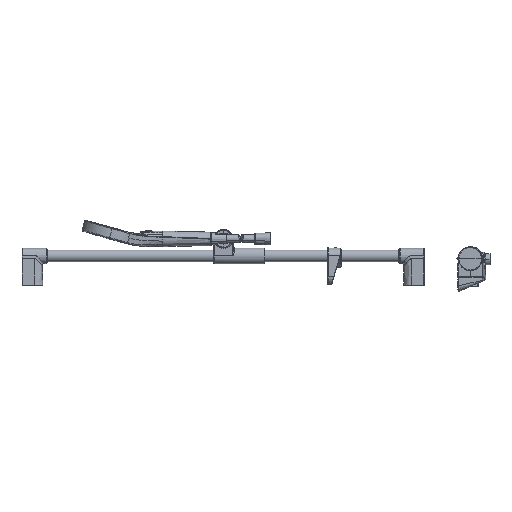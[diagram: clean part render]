
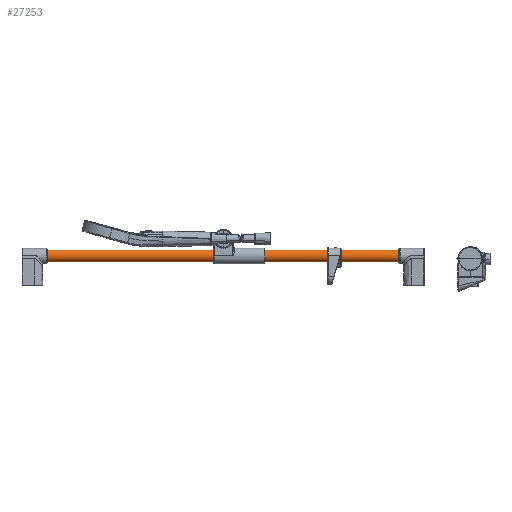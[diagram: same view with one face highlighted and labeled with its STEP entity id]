
A CAD part, left-side view. The second image highlights one B-rep face of the part: STEP entity #27253.
In plain terms, the highlighted cylindrical face has radius 10.95 mm (diameter 21.9 mm), a partial arc.
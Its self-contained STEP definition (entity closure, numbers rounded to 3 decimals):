
#89 = CIRCLE ( 'NONE', #84510, 10.95 ) ;
#2866 = CARTESIAN_POINT ( 'NONE',  ( 0., -416.3, -10.95 ) ) ;
#6930 = DIRECTION ( 'NONE',  ( 0., -1., 0. ) ) ;
#7732 = ORIENTED_EDGE ( 'NONE', *, *, #27864, .T. ) ;
#8297 = DIRECTION ( 'NONE',  ( 0., -1., 0. ) ) ;
#8756 = ORIENTED_EDGE ( 'NONE', *, *, #66362, .T. ) ;
#11321 = CARTESIAN_POINT ( 'NONE',  ( 0., -416.3, 0. ) ) ;
#15025 = CARTESIAN_POINT ( 'NONE',  ( 0., 343.7, 10.95 ) ) ;
#15289 = EDGE_CURVE ( 'NONE', #19762, #37094, #34067, .T. ) ;
#15414 = DIRECTION ( 'NONE',  ( 0., 0., -1. ) ) ;
#17396 = ORIENTED_EDGE ( 'NONE', *, *, #75788, .F. ) ;
#19762 = VERTEX_POINT ( 'NONE', #41469 ) ;
#22465 = DIRECTION ( 'NONE',  ( 0., 0., 1. ) ) ;
#27253 = ADVANCED_FACE ( 'NONE', ( #29627 ), #63285, .T. ) ;
#27864 = EDGE_CURVE ( 'NONE', #48154, #68106, #89, .T. ) ;
#29627 = FACE_OUTER_BOUND ( 'NONE', #75549, .T. ) ;
#32865 = DIRECTION ( 'NONE',  ( 0., -1., 0. ) ) ;
#34067 = CIRCLE ( 'NONE', #52718, 10.95 ) ;
#36513 = LINE ( 'NONE', #15025, #43479 ) ;
#37094 = VERTEX_POINT ( 'NONE', #2866 ) ;
#41469 = CARTESIAN_POINT ( 'NONE',  ( 0., -416.3, 10.95 ) ) ;
#43115 = CARTESIAN_POINT ( 'NONE',  ( 0., 343.7, 0. ) ) ;
#43479 = VECTOR ( 'NONE', #8297, 1000. ) ;
#48154 = VERTEX_POINT ( 'NONE', #71081 ) ;
#51675 = DIRECTION ( 'NONE',  ( 0., -1., 0. ) ) ;
#52718 = AXIS2_PLACEMENT_3D ( 'NONE', #11321, #51675, #85243 ) ;
#54499 = AXIS2_PLACEMENT_3D ( 'NONE', #43115, #70426, #22465 ) ;
#56023 = VECTOR ( 'NONE', #32865, 1000. ) ;
#63285 = CYLINDRICAL_SURFACE ( 'NONE', #54499, 10.95 ) ;
#66362 = EDGE_CURVE ( 'NONE', #68106, #37094, #67827, .T. ) ;
#66938 = CARTESIAN_POINT ( 'NONE',  ( 0., 343.7, -10.95 ) ) ;
#67827 = LINE ( 'NONE', #66938, #56023 ) ;
#68106 = VERTEX_POINT ( 'NONE', #88262 ) ;
#68769 = CARTESIAN_POINT ( 'NONE',  ( 0., 343.7, 0. ) ) ;
#70426 = DIRECTION ( 'NONE',  ( 0., -1., 0. ) ) ;
#71081 = CARTESIAN_POINT ( 'NONE',  ( 0., 343.7, 10.95 ) ) ;
#75549 = EDGE_LOOP ( 'NONE', ( #7732, #8756, #84819, #17396 ) ) ;
#75788 = EDGE_CURVE ( 'NONE', #48154, #19762, #36513, .T. ) ;
#84510 = AXIS2_PLACEMENT_3D ( 'NONE', #68769, #6930, #15414 ) ;
#84819 = ORIENTED_EDGE ( 'NONE', *, *, #15289, .F. ) ;
#85243 = DIRECTION ( 'NONE',  ( 0., 0., -1. ) ) ;
#88262 = CARTESIAN_POINT ( 'NONE',  ( 0., 343.7, -10.95 ) ) ;
